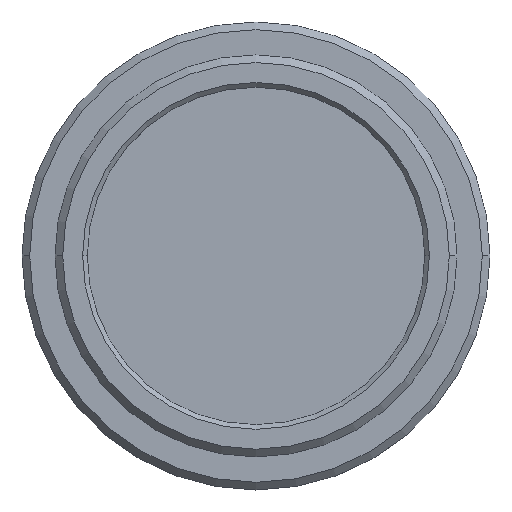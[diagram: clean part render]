
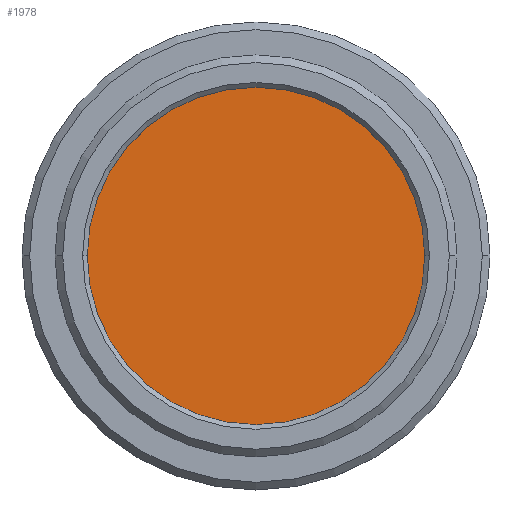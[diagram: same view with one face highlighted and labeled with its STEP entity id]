
A CAD part, top view. The second image highlights one B-rep face of the part: STEP entity #1978.
In plain terms, the highlighted planar face has unit normal (0, 0, 1).
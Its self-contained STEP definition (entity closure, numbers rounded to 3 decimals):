
#407 = CIRCLE ( 'NONE', #5092, 11. ) ;
#664 = DIRECTION ( 'NONE',  ( 0., 0., 1. ) ) ;
#691 = FACE_OUTER_BOUND ( 'NONE', #3084, .T. ) ;
#1076 = VERTEX_POINT ( 'NONE', #6924 ) ;
#1494 = VERTEX_POINT ( 'NONE', #7338 ) ;
#1495 = CARTESIAN_POINT ( 'NONE',  ( 0., 0., 0.9 ) ) ;
#1767 = AXIS2_PLACEMENT_3D ( 'NONE', #6272, #7429, #2618 ) ;
#1905 = CARTESIAN_POINT ( 'NONE',  ( 0., 0., 0.9 ) ) ;
#1978 = ADVANCED_FACE ( 'NONE', ( #691 ), #5036, .T. ) ;
#2618 = DIRECTION ( 'NONE',  ( 1., 0., 0. ) ) ;
#3084 = EDGE_LOOP ( 'NONE', ( #5376, #6318 ) ) ;
#4621 = DIRECTION ( 'NONE',  ( 1., 0., 0. ) ) ;
#5036 = PLANE ( 'NONE',  #1767 ) ;
#5092 = AXIS2_PLACEMENT_3D ( 'NONE', #1905, #664, #6165 ) ;
#5376 = ORIENTED_EDGE ( 'NONE', *, *, #7106, .T. ) ;
#5828 = DIRECTION ( 'NONE',  ( 0., 0., 1. ) ) ;
#6152 = EDGE_CURVE ( 'NONE', #1494, #1076, #407, .T. ) ;
#6165 = DIRECTION ( 'NONE',  ( 1., 0., 0. ) ) ;
#6272 = CARTESIAN_POINT ( 'NONE',  ( 0., 0., 0.9 ) ) ;
#6318 = ORIENTED_EDGE ( 'NONE', *, *, #6152, .T. ) ;
#6366 = CIRCLE ( 'NONE', #7352, 11. ) ;
#6924 = CARTESIAN_POINT ( 'NONE',  ( 11., 0., 0.9 ) ) ;
#7106 = EDGE_CURVE ( 'NONE', #1076, #1494, #6366, .T. ) ;
#7338 = CARTESIAN_POINT ( 'NONE',  ( -11., 0., 0.9 ) ) ;
#7352 = AXIS2_PLACEMENT_3D ( 'NONE', #1495, #5828, #4621 ) ;
#7429 = DIRECTION ( 'NONE',  ( 0., 0., 1. ) ) ;
